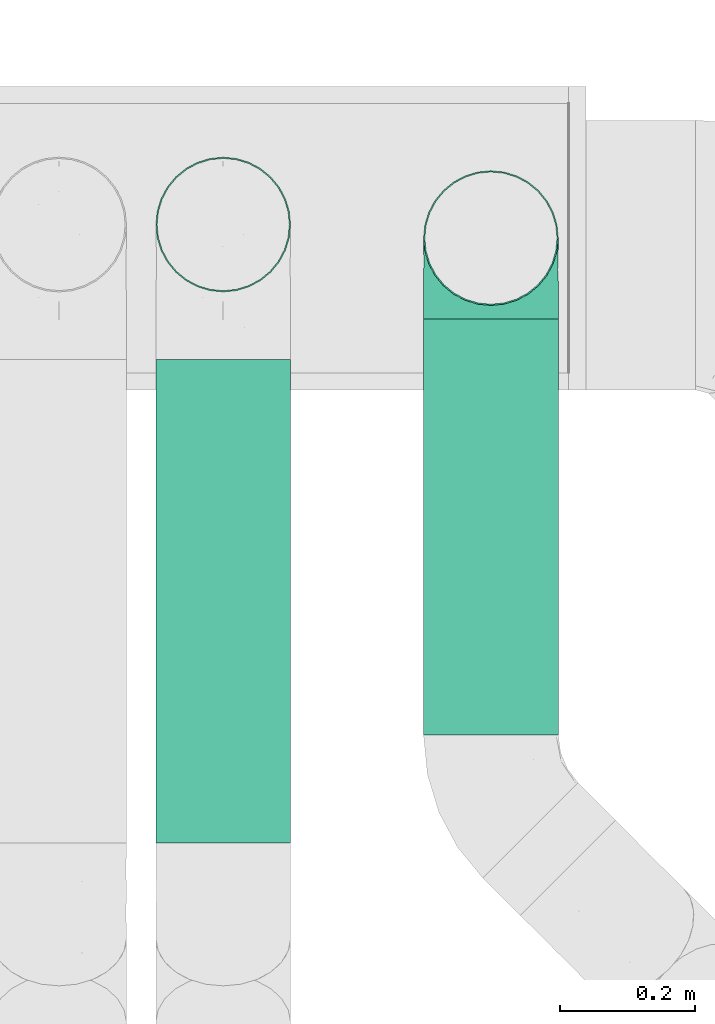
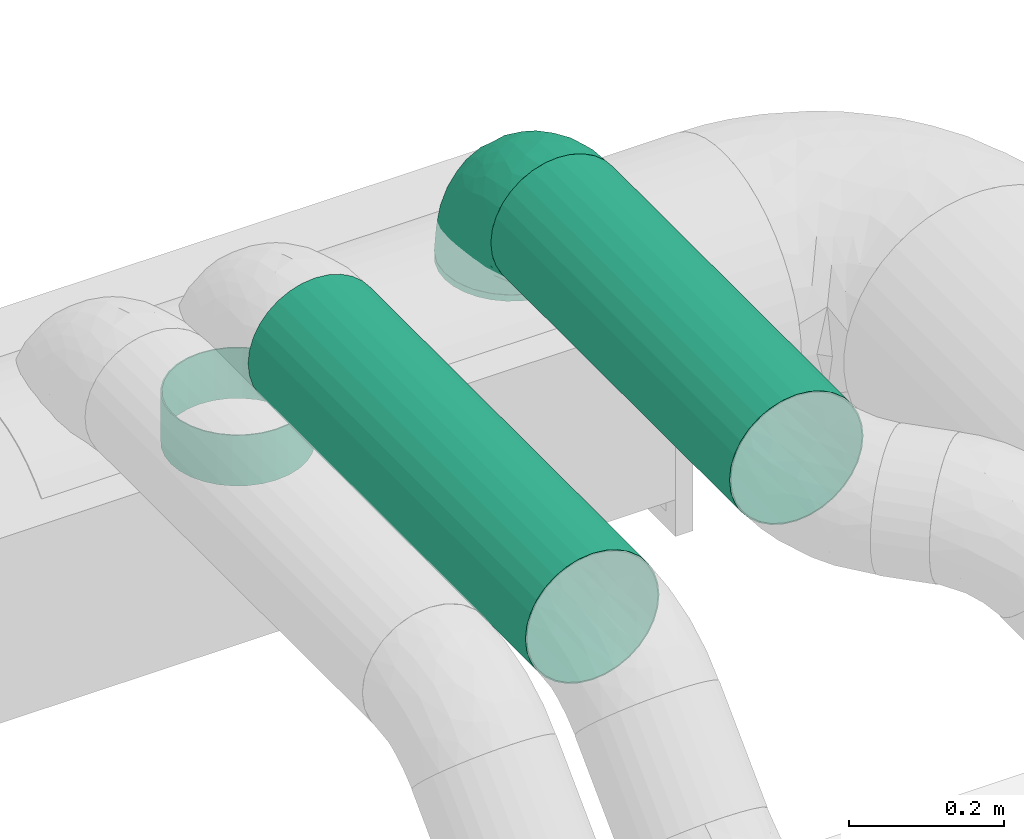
# One storey, part 4 of 9: 4 flow segments, 1 flow fitting.
"""IFC2X3 building model written with IfcOpenShell, lengths in millimetres."""

from ifc_helpers import new_model, entity, si_unit, converted_unit, derived_unit, direction, frame, origin_with_axes, origin_2d_with_axis, place, context, subcontext, project, spatial, hollow_circle, extrude, open_shell, surface_model, source, transform, mapped, type_object, element, save


model = new_model("IFC2X3")

# Units and contexts
model_context = context("Model", 3, precision=0.01, world=frame((0.0, 4.29681676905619e-09, 0.0)), true_north=direction((4.01073788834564e-13, 1.0)))
plan_context = context("Plan", 3, precision=0.01, world=frame((0.0, 4.29681676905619e-09, 0.0)), true_north=direction((4.01073788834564e-13, 1.0)))
body_context = subcontext(model_context, "Body", "Model", "MODEL_VIEW")
ifc_project = project(units=[converted_unit("PLANEANGLEUNIT", "DEGREE", entity("IfcPositiveLengthMeasure", 0.0174532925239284), si_unit("PLANEANGLEUNIT", "RADIAN"), dimensions=[0, 0, 0, 0, 0, 0, 0]), si_unit("AREAUNIT", "SQUARE_METRE"), si_unit("LENGTHUNIT", "METRE", prefix="MILLI"), si_unit("MASSUNIT", "GRAM", prefix="KILO"), si_unit("POWERUNIT", "WATT"), si_unit("PRESSUREUNIT", "PASCAL"), si_unit("FORCEUNIT", "NEWTON", prefix="KILO"), si_unit("ELECTRICVOLTAGEUNIT", "VOLT"), si_unit("ELECTRICCURRENTUNIT", "AMPERE"), si_unit("THERMODYNAMICTEMPERATUREUNIT", "DEGREE_CELSIUS"), si_unit("TIMEUNIT", "SECOND"), si_unit("VOLUMEUNIT", "CUBIC_METRE"), derived_unit("LINEARVELOCITYUNIT", [(si_unit("LENGTHUNIT", "METRE"), 1), (si_unit("TIMEUNIT", "SECOND"), -1)]), derived_unit("VOLUMETRICFLOWRATEUNIT", [(si_unit("VOLUMEUNIT", "CUBIC_METRE"), 1), (si_unit("TIMEUNIT", "SECOND"), -1)]), derived_unit("THERMALTRANSMITTANCEUNIT", [(si_unit("POWERUNIT", "WATT"), 1), (si_unit("THERMODYNAMICTEMPERATUREUNIT", "KELVIN"), -1), (si_unit("AREAUNIT", "SQUARE_METRE"), -1)]), derived_unit("SOUNDPRESSUREUNIT", [(si_unit("PRESSUREUNIT", "PASCAL"), 1)])], contexts=[model_context, plan_context])

# Site, building, storey
site_placement = place(None, frame((0.0, -4.29681676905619e-09, 0.0), z_axis=(0.0, 0.0, 1.0), x_axis=(1.0, 0.0, 0.0)))
site = spatial("IfcSite", under=ifc_project, at=site_placement, Name="ENGM", CompositionType="ELEMENT")
building_placement = place(site_placement, frame((0.0, 4.29681676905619e-09, 0.0), z_axis=(0.0, 0.0, 1.0), x_axis=(1.0, 0.0, 0.0)))
building = spatial("IfcBuilding", under=site, at=building_placement, Name="TH", CompositionType="ELEMENT")
storey_placement = place(building_placement, frame((0.0, 0.0, 205200.0), z_axis=(0.0, 0.0, 1.0), x_axis=(1.0, 0.0, 0.0)))
storey = spatial("IfcBuildingStorey", under=building, at=storey_placement, Name="Nivå D + 1,2 m", CompositionType="ELEMENT", Elevation=205200.0)

# Flow fitting
duct_fitting_type = type_object("IfcDuctFittingType", Name="magicirc_elbow_short_001", PredefinedType="BEND")
shared_shape_1 = source(origin_with_axes(), body_context, "Body", "SurfaceModel", [
    surface_model("IfcShellBasedSurfaceModel", [(-120.0, 0.0, -100.0), (-120.0, -86.60254, -50.0), (-120.0, 25.8819, -96.59259), (-120.0, 50.0, -86.60254), (-120.0, 70.71068, -70.71068), (-120.0, 96.59259, -25.8819), (-120.0, 86.60254, -50.0), (-120.0, -50.0, -86.60254), (-120.0, -70.71068, -70.71068), (-120.0, -25.8819, -96.59259), (-120.0, -96.59259, -25.8819), (-120.0, -100.0, 0.0), (-120.0, 96.59259, 25.8819), (-120.0, -96.59259, 25.8819), (-120.0, 86.60254, 50.0), (-120.0, 25.8819, 96.59259), (-120.0, 50.0, 86.60254), (-120.0, 70.71068, 70.71068), (-120.0, -25.8819, 96.59259), (-120.0, -70.71068, 70.71068), (-120.0, -50.0, 86.60254), (-120.0, -86.60254, 50.0), (-120.0, 0.0, 100.0), (-120.0, 100.0, 0.0), (-25.8819, 120.0, -96.59259), (70.71068, 120.0, -70.71068), (0.0, 120.0, -100.0), (-70.71068, 120.0, -70.71068), (-50.0, 120.0, -86.60254), (-86.60254, 120.0, -50.0), (-96.59259, 120.0, -25.8819), (86.60254, 120.0, -50.0), (25.8819, 120.0, -96.59259), (50.0, 120.0, -86.60254), (100.0, 120.0, 0.0), (96.59259, 120.0, -25.8819), (-96.59259, 120.0, 25.8819), (96.59259, 120.0, 25.8819), (-25.8819, 120.0, 96.59259), (-86.60254, 120.0, 50.0), (-70.71068, 120.0, 70.71068), (-50.0, 120.0, 86.60254), (25.8819, 120.0, 96.59259), (86.60254, 120.0, 50.0), (50.0, 120.0, 86.60254), (70.71068, 120.0, 70.71068), (0.0, 120.0, 100.0), (-100.0, 120.0, 0.0), (-57.47657, 95.22229, 84.95805), (-85.33946, -92.96309, 28.79275), (-95.20929, -97.20676, 0.0), (-84.48473, -65.01559, 72.95431), (-52.96075, -70.60035, 57.16979), (-58.29219, -58.77958, 72.2572), (-71.0454, -94.48414, 0.0), (-33.46621, 86.30074, 96.24781), (-7.45333, 88.76819, 99.94878), (-26.53059, -25.83103, 84.66541), (5.23459, -24.1841, 70.44192), (-1.23107, 1.23105, 87.74618), (-103.71213, 103.71213, 24.44784), (-95.28171, 98.70414, 48.64074), (-78.83961, -43.63421, 87.3226), (48.45058, -8.12007, 40.03254), (39.62941, -27.51041, 22.8702), (55.13075, -9.11298, 21.86769), (27.15427, -27.15428, 47.29752), (-0.9865, -46.35038, 53.41318), (-49.25997, -85.42957, 23.21428), (-69.41482, -80.94006, 48.93369), (34.63169, 2.36241, 66.9375), (-59.03727, -17.74459, 95.19283), (-92.36993, -18.34983, 97.75252), (-98.24586, -81.70799, 55.95793), (-87.21661, 7.38787, 99.96319), (-79.82304, 33.86298, 96.83649), (-103.25245, 34.36931, 94.48617), (-49.8635, 16.95363, 99.89181), (-93.99414, 57.52782, 85.21417), (-13.524, 31.6217, 98.29715), (-30.34675, -2.85909, 94.71053), (-102.74619, 77.59979, 67.01377), (-105.2102, 88.7141, 52.03645), (94.48414, 71.0454, 0.0), (92.96309, 85.33946, 28.79275), (85.42957, 49.25997, 23.21428), (18.34983, 92.36993, 97.75252), (-37.44754, -44.66633, 76.66985), (-66.8783, 56.54931, 92.80405), (65.01559, 84.48473, 72.95431), (43.6342, 78.83961, 87.3226), (37.67702, 38.38344, 81.78155), (58.58205, 33.30331, 61.93165), (58.77958, 58.29217, 72.2572), (14.52663, -47.57763, 31.54394), (81.70799, 98.24586, 55.95793), (97.20676, 95.20929, 0.0), (75.2275, 38.8764, 40.54554), (80.94006, 69.41482, 48.93369), (-19.32309, 64.21329, 99.87988), (-105.85786, 105.85786, 0.0), (17.74458, 59.03726, 95.19283), (70.60036, 52.96074, 57.16978), (-82.76473, 82.76473, 73.92657), (-77.59979, 102.74619, 67.01377), (-38.87641, -75.2275, 40.54555), (-40.86148, 50.04827, 98.96107), (-25.82378, -76.70765, 19.45345), (-49.50418, 71.23352, 93.94065), (-57.3172, 35.12243, 98.9453), (65.10804, 3.68891, 0.0), (65.80674, 11.30259, 30.40508), (15.01777, 28.10412, 90.12797), (-0.1518, 65.0789, 99.29745), (-47.79548, -86.34864, 0.0), (-67.45496, 75.91085, 85.7741), (-3.68891, -65.10804, 0.0), (17.16776, -52.00293, 0.0), (-11.30259, -65.80674, 30.40508), (-24.54558, -78.21315, 0.0), (76.76895, 27.91333, 23.28633), (86.34864, 47.79548, 0.0), (58.40844, 13.74403, 48.13414), (52.00293, -17.16776, 0.0), (20.33542, 8.19535, 80.42602), (-51.11653, -33.50476, 87.58865), (-33.30333, -58.58206, 61.93166), (-17.26255, -60.80757, 47.57586), (78.21315, 24.54558, 0.0), (34.58534, -34.58534, 0.0), (-86.30074, 33.4662, -96.24781), (-34.36932, 103.25245, -94.48617), (-11.30259, -65.80673, -30.40508), (9.11298, -55.13075, -21.86769), (-98.24586, -81.70799, -55.95793), (-88.7682, 7.45333, -99.94878), (43.63421, 78.83961, -87.3226), (-98.70414, 95.28171, -48.64074), (-82.76473, 82.76473, -73.92657), (-102.74619, 77.59979, -67.01377), (85.42957, 49.25997, -23.21428), (75.22749, 38.8764, -40.54555), (80.94006, 69.41482, -48.93369), (27.15427, -27.15428, -47.29753), (47.57763, -14.52663, -31.54396), (27.51041, -39.62941, -22.8702), (-71.23352, 49.50417, -93.94066), (-56.54932, 66.8783, -92.80405), (-50.04827, 40.86148, -98.96107), (-33.86298, 79.82303, -96.83649), (-57.52782, 93.99414, -85.21417), (-16.95364, 49.8635, -99.89182), (-31.6217, 13.52399, -98.29715), (-85.33946, -92.96309, -28.79275), (24.18408, -5.23461, -70.44192), (46.35038, 0.9865, -53.41318), (65.01559, 84.48472, -72.95431), (-84.48473, -65.01559, -72.95431), (-78.83961, -43.63421, -87.3226), (-103.71213, 103.71213, -24.44784), (-95.22229, 57.47657, -84.95805), (-49.25997, -85.42957, -23.21428), (-92.36993, -18.34984, -97.75252), (-38.87641, -75.2275, -40.54555), (-69.41482, -80.94006, -48.93369), (-88.7141, 105.2102, -52.03645), (-7.38786, 87.21659, -99.96319), (17.74459, 59.03726, -95.19283), (-33.30333, -58.58206, -61.93166), (-52.96075, -70.60035, -57.16979), (-77.59979, 102.74619, -67.01377), (-38.38346, -37.67703, -81.78155), (-2.36242, -34.6317, -66.93751), (18.34983, 92.36993, -97.75252), (81.70799, 98.24586, -55.95793), (8.12006, -48.45058, -40.03254), (-1.23106, 1.23105, -87.74618), (25.83103, 26.53058, -84.6654), (92.96309, 85.33946, -28.79275), (76.70765, 25.82378, -19.45345), (-59.03727, -17.74459, -95.19283), (2.8591, 30.34673, -94.71053), (-64.21329, 19.32309, -99.87988), (58.77958, 58.29219, -72.2572), (70.60035, 52.96075, -57.16979), (-58.29219, -58.77958, -72.2572), (-35.12244, 57.3172, -98.9453), (44.66633, 37.44754, -76.66985), (-28.10413, -15.01778, -90.12797), (-65.07891, 0.1518, -99.29745), (-75.91086, 67.45496, -85.7741), (-27.91333, -76.76895, -23.28633), (-13.74403, -58.40844, -48.13415), (65.80673, 11.30258, -30.40508), (-8.19536, -20.33543, -80.42602), (33.50476, 51.11653, -87.58865), (58.58205, 33.30333, -61.93166), (60.80757, 17.26255, -47.57586)], [open_shell([[[0, 1, 2]], [[3, 2, 4]], [[5, 6, 4]], [[1, 4, 2]], [[4, 1, 5]], [[7, 8, 9]], [[8, 0, 9]], [[10, 11, 1]], [[1, 0, 8]], [[1, 11, 5]], [[11, 12, 5]], [[12, 11, 13]], [[14, 12, 15]], [[15, 16, 17]], [[14, 15, 17]], [[15, 12, 18]], [[19, 20, 21]], [[13, 21, 20]], [[13, 20, 12]], [[20, 18, 12]], [[18, 22, 15]], [[23, 5, 12]], [[24, 25, 26]], [[27, 24, 28]], [[27, 29, 30]], [[24, 27, 31]], [[30, 31, 27]], [[32, 25, 33]], [[32, 26, 25]], [[31, 34, 35]], [[25, 24, 31]], [[30, 34, 31]], [[30, 36, 34]], [[37, 34, 36]], [[38, 36, 39]], [[40, 41, 38]], [[40, 38, 39]], [[42, 36, 38]], [[43, 44, 45]], [[44, 43, 37]], [[36, 44, 37]], [[36, 42, 44]], [[38, 46, 42]], [[36, 30, 47]], [[41, 40, 48]], [[49, 13, 50]], [[49, 21, 13]], [[51, 52, 53]], [[50, 54, 49]], [[38, 55, 56]], [[57, 58, 59]], [[60, 61, 36]], [[20, 51, 62]], [[63, 64, 65]], [[66, 58, 67]], [[49, 68, 69]], [[20, 19, 51]], [[58, 66, 70]], [[62, 71, 72]], [[22, 18, 72]], [[73, 19, 21]], [[74, 75, 76]], [[75, 74, 77]], [[16, 76, 78]], [[79, 77, 80]], [[17, 81, 14]], [[82, 12, 14]], [[81, 82, 14]], [[23, 12, 60]], [[83, 84, 85]], [[16, 78, 17]], [[41, 48, 55]], [[42, 46, 86]], [[53, 87, 62]], [[18, 20, 62]], [[75, 88, 78]], [[89, 45, 44]], [[86, 90, 42]], [[60, 12, 82]], [[44, 42, 90]], [[91, 92, 93]], [[84, 37, 43]], [[66, 94, 64]], [[90, 89, 44]], [[45, 95, 43]], [[84, 96, 37]], [[97, 85, 98]], [[15, 76, 16]], [[99, 56, 55]], [[100, 23, 60]], [[91, 90, 101]], [[100, 60, 47]], [[92, 97, 102]], [[103, 104, 61]], [[68, 105, 69]], [[106, 77, 79]], [[61, 39, 36]], [[40, 39, 104]], [[15, 22, 74]], [[107, 105, 68]], [[108, 88, 106]], [[55, 38, 41]], [[56, 46, 38]], [[92, 91, 70]], [[109, 77, 106]], [[110, 111, 65]], [[74, 71, 77]], [[72, 74, 22]], [[80, 71, 57]], [[75, 109, 88]], [[81, 78, 103]], [[112, 79, 59]], [[113, 56, 99]], [[68, 54, 114]], [[73, 49, 69]], [[95, 84, 43]], [[85, 84, 98]], [[104, 48, 40]], [[115, 88, 108]], [[108, 99, 55]], [[56, 113, 86]], [[102, 93, 92]], [[95, 89, 98]], [[73, 51, 19]], [[52, 69, 105]], [[116, 117, 118]], [[68, 119, 107]], [[107, 116, 118]], [[67, 94, 66]], [[97, 111, 120]], [[85, 121, 83]], [[70, 63, 122]], [[65, 123, 110]], [[101, 112, 91]], [[66, 64, 63]], [[124, 91, 112]], [[70, 124, 58]], [[59, 80, 57]], [[58, 87, 67]], [[57, 125, 87]], [[58, 57, 87]], [[99, 108, 106]], [[78, 88, 115]], [[56, 86, 46]], [[90, 86, 101]], [[62, 72, 18]], [[74, 72, 71]], [[61, 104, 39]], [[104, 103, 115]], [[78, 81, 17]], [[82, 103, 61]], [[126, 127, 67]], [[67, 127, 94]], [[85, 128, 121]], [[94, 129, 64]], [[110, 120, 111]], [[63, 65, 111]], [[122, 63, 111]], [[70, 66, 63]], [[79, 80, 59]], [[77, 71, 80]], [[106, 79, 99]], [[113, 79, 101]], [[55, 48, 108]], [[48, 104, 115]], [[48, 115, 108]], [[78, 115, 103]], [[127, 105, 118]], [[105, 127, 52]], [[53, 52, 126]], [[51, 69, 52]], [[87, 53, 126]], [[62, 51, 53]], [[87, 126, 67]], [[57, 71, 125]], [[71, 62, 125]], [[62, 87, 125]], [[102, 97, 98]], [[122, 97, 92]], [[98, 89, 102]], [[93, 102, 89]], [[89, 90, 93]], [[91, 93, 90]], [[97, 122, 111]], [[70, 122, 92]], [[79, 113, 99]], [[86, 113, 101]], [[64, 123, 65]], [[85, 97, 120]], [[79, 112, 101]], [[120, 110, 128]], [[124, 112, 59]], [[58, 124, 59]], [[91, 124, 70]], [[103, 82, 81]], [[82, 61, 60]], [[13, 11, 50]], [[96, 84, 83]], [[96, 34, 37]], [[47, 60, 36]], [[74, 76, 15]], [[78, 76, 75]], [[49, 73, 21]], [[51, 73, 69]], [[89, 95, 45]], [[84, 95, 98]], [[88, 109, 106]], [[75, 77, 109]], [[54, 68, 49]], [[114, 119, 68]], [[105, 107, 118]], [[107, 119, 116]], [[117, 94, 118]], [[127, 126, 52]], [[94, 127, 118]], [[129, 94, 117]], [[129, 123, 64]], [[128, 85, 120]], [[3, 130, 2]], [[24, 131, 28]], [[132, 133, 116]], [[8, 134, 1]], [[2, 135, 0]], [[32, 33, 136]], [[137, 138, 139]], [[140, 141, 142]], [[6, 139, 4]], [[143, 144, 145]], [[6, 5, 137]], [[146, 147, 148]], [[149, 147, 150]], [[148, 151, 152]], [[1, 153, 10]], [[143, 154, 155]], [[153, 50, 10]], [[33, 25, 156]], [[157, 7, 158]], [[159, 137, 5]], [[8, 7, 157]], [[7, 9, 158]], [[3, 4, 160]], [[35, 34, 96]], [[54, 153, 161]], [[9, 162, 158]], [[163, 161, 164]], [[165, 30, 29]], [[23, 100, 159]], [[166, 167, 151]], [[47, 30, 159]], [[168, 163, 169]], [[29, 170, 165]], [[24, 26, 166]], [[168, 171, 172]], [[27, 170, 29]], [[149, 131, 166]], [[160, 130, 3]], [[149, 166, 151]], [[136, 167, 173]], [[174, 25, 31]], [[27, 28, 150]], [[28, 131, 150]], [[32, 173, 26]], [[136, 33, 156]], [[154, 143, 172]], [[2, 130, 135]], [[133, 175, 145]], [[154, 176, 177]], [[9, 0, 162]], [[140, 142, 178]], [[179, 141, 140]], [[96, 83, 178]], [[35, 96, 178]], [[171, 158, 180]], [[152, 151, 181]], [[182, 135, 130]], [[183, 156, 184]], [[171, 168, 185]], [[178, 31, 35]], [[173, 166, 26]], [[159, 5, 23]], [[149, 151, 186]], [[183, 187, 136]], [[181, 167, 177]], [[149, 186, 147]], [[170, 150, 138]], [[188, 152, 176]], [[189, 135, 182]], [[134, 153, 1]], [[161, 153, 164]], [[140, 83, 121]], [[174, 178, 142]], [[139, 160, 4]], [[190, 147, 146]], [[146, 182, 130]], [[135, 189, 162]], [[169, 185, 168]], [[134, 157, 164]], [[174, 156, 25]], [[184, 142, 141]], [[163, 132, 191]], [[161, 114, 54]], [[172, 175, 192]], [[133, 117, 116]], [[110, 123, 193]], [[140, 128, 179]], [[179, 110, 193]], [[155, 144, 143]], [[180, 188, 171]], [[143, 145, 175]], [[194, 171, 188]], [[172, 194, 154]], [[176, 181, 177]], [[154, 187, 155]], [[177, 195, 187]], [[154, 177, 187]], [[182, 146, 148]], [[150, 147, 190]], [[135, 162, 0]], [[158, 162, 180]], [[136, 173, 32]], [[166, 173, 167]], [[137, 139, 6]], [[139, 138, 190]], [[150, 170, 27]], [[165, 138, 137]], [[196, 197, 155]], [[155, 197, 144]], [[197, 196, 184]], [[144, 129, 145]], [[116, 191, 132]], [[175, 133, 132]], [[192, 175, 132]], [[172, 143, 175]], [[152, 181, 176]], [[151, 167, 181]], [[148, 152, 182]], [[189, 152, 180]], [[130, 160, 146]], [[160, 139, 190]], [[160, 190, 146]], [[150, 190, 138]], [[169, 163, 164]], [[192, 163, 168]], [[164, 157, 169]], [[185, 169, 157]], [[157, 158, 185]], [[171, 185, 158]], [[197, 141, 193]], [[141, 197, 184]], [[183, 184, 196]], [[156, 142, 184]], [[187, 183, 196]], [[136, 156, 183]], [[187, 196, 155]], [[177, 167, 195]], [[167, 136, 195]], [[136, 187, 195]], [[163, 192, 132]], [[172, 192, 168]], [[152, 189, 182]], [[162, 189, 180]], [[145, 117, 133]], [[161, 163, 191]], [[152, 188, 180]], [[191, 116, 119]], [[194, 188, 176]], [[154, 194, 176]], [[171, 194, 172]], [[138, 165, 170]], [[165, 137, 159]], [[50, 153, 54]], [[50, 11, 10]], [[47, 159, 100]], [[159, 30, 165]], [[166, 131, 24]], [[150, 131, 149]], [[178, 174, 31]], [[156, 174, 142]], [[157, 134, 8]], [[153, 134, 164]], [[151, 148, 186]], [[147, 186, 148]], [[161, 119, 114]], [[83, 140, 178]], [[121, 128, 140]], [[141, 179, 193]], [[179, 128, 110]], [[123, 144, 193]], [[144, 197, 193]], [[129, 144, 123]], [[129, 117, 145]], [[119, 161, 191]]])]),
])
flow_fitting_placement = place(storey_placement, frame((896718.71393, 480797.12038, 4416.87078), z_axis=(1.0, 0.0, 0.0), x_axis=(0.0, 0.0, 1.0)))
element("IfcFlowFitting", 1, at=flow_fitting_placement, inside=storey, type_object=duct_fitting_type, Name="magicirc_elbow_short_001", context=body_context, shape_type="MappedRepresentation", body=[
    mapped(shared_shape_1, transform((0.0, 0.0, 0.0), scale=1.0)),
])

# Flow segments
duct_segment_type = type_object("IfcDuctSegmentType", Name="4 - Spiro kanaler, korte bend", PredefinedType="RIGIDSEGMENT")
shared_shape_2 = source(origin_with_axes(), body_context, "Body", "SweptSolid", [
    extrude(hollow_circle(Radius=100.0, WallThickness=2.0, at=origin_2d_with_axis()), frame((0.0, 0.0, 0.0), z_axis=(1.0, 0.0, 0.0), x_axis=(0.0, 1.0, 0.0)), (0.0, 0.0, 1.0), 80.0),
])
flow_segment_1_placement = place(storey_placement, frame((896321.62292, 480817.20154, 4202.11017999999), z_axis=(0.0, -1.0, 0.0), x_axis=(0.0, 0.0, -1.0)))
element("IfcFlowSegment", 2, at=flow_segment_1_placement, inside=storey, type_object=duct_segment_type, Name="4 - Spiro kanaler, korte bend", context=body_context, shape_type="MappedRepresentation", body=[
    mapped(shared_shape_2, transform((0.0, 0.0, 0.0), scale=1.0)),
])
shared_shape_3 = source(origin_with_axes(), body_context, "Body", "SweptSolid", [
    extrude(hollow_circle(Radius=100.0, WallThickness=2.0, at=origin_2d_with_axis()), frame((0.0, 0.0, 0.0), z_axis=(1.0, 0.0, 0.0), x_axis=(0.0, 1.0, 0.0)), (0.0, 0.0, 1.0), 717.2),
])
flow_segment_2_placement = place(storey_placement, frame((896321.62292, 479900.04425, 4402.11017999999), z_axis=(0.0, 0.0, 1.0), x_axis=(0.0, 1.0, 0.0)))
element("IfcFlowSegment", 3, at=flow_segment_2_placement, inside=storey, type_object=duct_segment_type, Name="4 - Spiro kanaler, korte bend", context=body_context, shape_type="MappedRepresentation", body=[
    mapped(shared_shape_3, transform((0.0, 0.0, 0.0), scale=1.0)),
])
shared_shape_4 = source(origin_with_axes(), body_context, "Body", "SweptSolid", [
    extrude(hollow_circle(Radius=100.0, WallThickness=2.0, at=origin_2d_with_axis()), frame((0.0, 0.0, 0.0), z_axis=(1.0, 0.0, 0.0), x_axis=(0.0, 1.0, 0.0)), (0.0, 0.0, 1.0), 10.0),
])
flow_segment_3_placement = place(storey_placement, frame((896718.71393, 480797.12038, 4286.87078), z_axis=(1.0, 0.0, 0.0), x_axis=(0.0, 0.0, 1.0)))
element("IfcFlowSegment", 4, at=flow_segment_3_placement, inside=storey, type_object=duct_segment_type, Name="4 - Spiro kanaler, korte bend", context=body_context, shape_type="MappedRepresentation", body=[
    mapped(shared_shape_4, transform((0.0, 0.0, 0.0), scale=1.0)),
])
shared_shape_5 = source(origin_with_axes(), body_context, "Body", "SweptSolid", [
    extrude(hollow_circle(Radius=100.0, WallThickness=2.0, at=origin_2d_with_axis()), frame((0.0, 0.0, 0.0), z_axis=(1.0, 0.0, 0.0), x_axis=(0.0, 1.0, 0.0)), (0.0, 0.0, 1.0), 617.1),
])
flow_segment_4_placement = place(storey_placement, frame((896718.71393, 480677.12038, 4416.87078), z_axis=(0.0, 0.0, 1.0), x_axis=(0.0, -1.0, 0.0)))
element("IfcFlowSegment", 5, at=flow_segment_4_placement, inside=storey, type_object=duct_segment_type, Name="4 - Spiro kanaler, korte bend", context=body_context, shape_type="MappedRepresentation", body=[
    mapped(shared_shape_5, transform((0.0, 0.0, 0.0), scale=1.0)),
])

save(model, "model.ifc")
